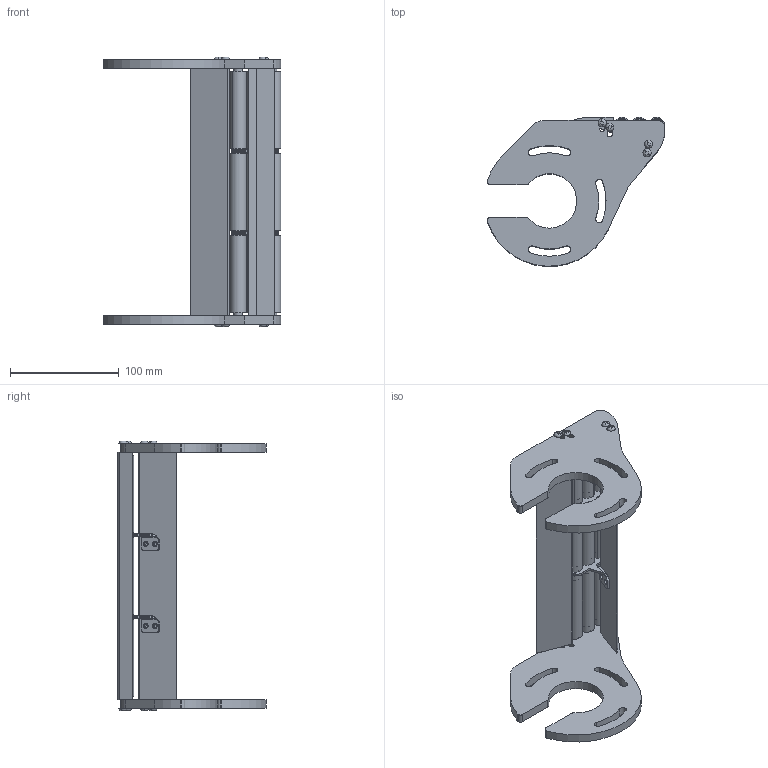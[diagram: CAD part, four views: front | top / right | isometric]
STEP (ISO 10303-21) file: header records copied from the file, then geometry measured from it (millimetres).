
FILE_DESCRIPTION (( 'STEP AP214' ), '1' );
FILE_NAME ('F2 750 TGRI 1M.STEP', '2024-02-26T14:49:59', ( '' ), ( '' ), 'SwSTEP 2.0', 'SolidWorks 2022', '' );
FILE_SCHEMA (( 'AUTOMOTIVE_DESIGN' ));
Length unit declared in the file: millimetre
Products named in the file (15): AXE TGRI F2 750; TBHC 4X16; ROULEMENT TGRI CAB-F2-R-HEF; ENTRETOISE SA TGRI; PSTI F2 1M Symétrie; PT-F2 - F2-750 percé; GR F2 750; PT-F2 - F2-750; SA TGRI; PSTI F2 1M; Galet + roulement F2 750; ENTRETOISE TGRI CAB-F2-R-HEF; Insert M4 TB; SA TGRI + ENTRETOISE; F2 750 TGRI 1M
Assembly tree (43 placements, depth 3):
  F2 750 TGRI 1M
    PSTI F2 1M Symétrie
    PSTI F2 1M
    PT-F2 - F2-750 percé
    PT-F2 - F2-750
    AXE TGRI F2 750  x3
    Galet + roulement F2 750  x9
      GR F2 750
      ROULEMENT TGRI CAB-F2-R-HEF
    ENTRETOISE TGRI CAB-F2-R-HEF  x6
    SA TGRI + ENTRETOISE  x2
      SA TGRI
      ENTRETOISE SA TGRI
    TBHC 4X16  x8
    Insert M4 TB  x4
Bounding box: 162.87 x 136.6 x 247.78 mm (x, y, z)
Volume: 405745.9 mm3; surface area: 184193.9 mm2
Topology: 60 solids, 60 shells, 2284 faces, 5018 edges, 2926 vertices
Faces by surface type: cone 1016, cylinder 632, plane 354, torus 246, sphere 26, bspline 10
Entity records: 17911 total; most frequent: CARTESIAN_POINT 3307, DIRECTION 3155, ORIENTED_EDGE 2620, EDGE_CURVE 1310, AXIS2_PLACEMENT_3D 1282, VERTEX_POINT 795, CIRCLE 681, EDGE_LOOP 615
